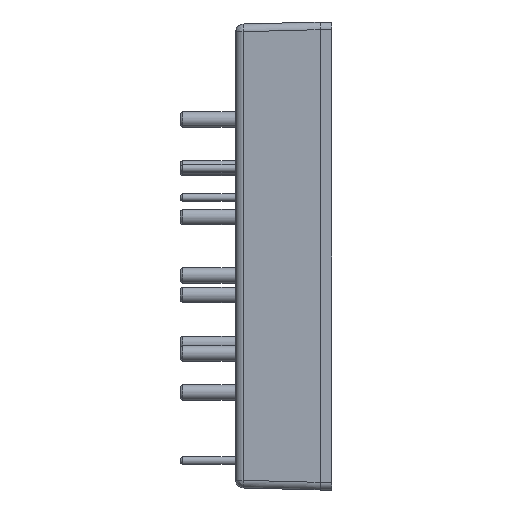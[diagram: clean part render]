
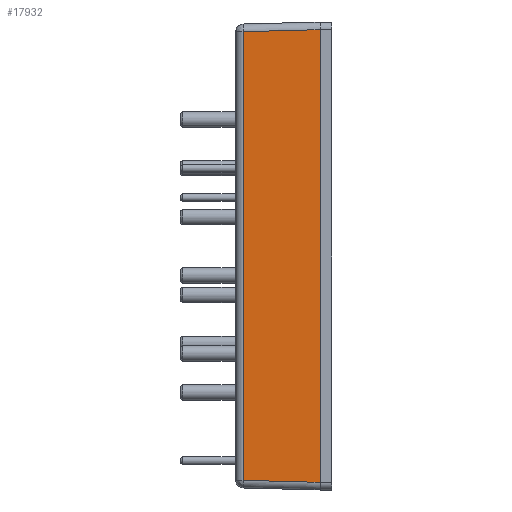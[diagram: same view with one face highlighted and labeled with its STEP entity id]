
A CAD part, left-side view. The second image highlights one B-rep face of the part: STEP entity #17932.
In plain terms, the highlighted planar face has unit normal (-1, 0.026, 0).
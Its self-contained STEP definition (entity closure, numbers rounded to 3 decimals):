
#202 = FACE_OUTER_BOUND ( 'NONE', #36444, .T. ) ;
#4169 = VECTOR ( 'NONE', #21735, 1000. ) ;
#4632 = CARTESIAN_POINT ( 'NONE',  ( -58.4, 0., -30.5 ) ) ;
#6260 = CARTESIAN_POINT ( 'NONE',  ( -58.4, 0., 29.5 ) ) ;
#6629 = VERTEX_POINT ( 'NONE', #35827 ) ;
#8960 = EDGE_CURVE ( 'NONE', #23808, #12847, #17858, .T. ) ;
#10333 = DIRECTION ( 'NONE',  ( -0.026, -0.999, -0.026 ) ) ;
#12500 = CARTESIAN_POINT ( 'NONE',  ( -58.137, 10.026, 29.238 ) ) ;
#12653 = EDGE_CURVE ( 'NONE', #6629, #23808, #16573, .T. ) ;
#12847 = VERTEX_POINT ( 'NONE', #30508 ) ;
#13331 = ORIENTED_EDGE ( 'NONE', *, *, #38522, .T. ) ;
#13570 = DIRECTION ( 'NONE',  ( 0., 0., 1. ) ) ;
#13917 = DIRECTION ( 'NONE',  ( -1., 0.026, 0. ) ) ;
#15765 = AXIS2_PLACEMENT_3D ( 'NONE', #4632, #13917, #20488 ) ;
#16421 = CARTESIAN_POINT ( 'NONE',  ( -58.4, 0., -30.5 ) ) ;
#16573 = LINE ( 'NONE', #38823, #27574 ) ;
#17135 = ORIENTED_EDGE ( 'NONE', *, *, #12653, .T. ) ;
#17858 = LINE ( 'NONE', #16421, #29789 ) ;
#17932 = ADVANCED_FACE ( 'NONE', ( #202 ), #36603, .T. ) ;
#20488 = DIRECTION ( 'NONE',  ( -0.026, -1., 0. ) ) ;
#21735 = DIRECTION ( 'NONE',  ( 0.026, 0.999, -0.026 ) ) ;
#23073 = ORIENTED_EDGE ( 'NONE', *, *, #8960, .T. ) ;
#23808 = VERTEX_POINT ( 'NONE', #32010 ) ;
#24758 = VECTOR ( 'NONE', #13570, 1000. ) ;
#27574 = VECTOR ( 'NONE', #10333, 1000. ) ;
#28833 = VERTEX_POINT ( 'NONE', #12500 ) ;
#29789 = VECTOR ( 'NONE', #38678, 1000. ) ;
#30508 = CARTESIAN_POINT ( 'NONE',  ( -58.4, 0., 29.5 ) ) ;
#31548 = LINE ( 'NONE', #6260, #4169 ) ;
#31887 = EDGE_CURVE ( 'NONE', #6629, #28833, #36142, .T. ) ;
#32010 = CARTESIAN_POINT ( 'NONE',  ( -58.4, 0., -29.5 ) ) ;
#32788 = CARTESIAN_POINT ( 'NONE',  ( -58.137, 10.026, 30.5 ) ) ;
#35827 = CARTESIAN_POINT ( 'NONE',  ( -58.137, 10.026, -29.238 ) ) ;
#36142 = LINE ( 'NONE', #32788, #24758 ) ;
#36444 = EDGE_LOOP ( 'NONE', ( #17135, #23073, #13331, #39046 ) ) ;
#36603 = PLANE ( 'NONE',  #15765 ) ;
#38522 = EDGE_CURVE ( 'NONE', #12847, #28833, #31548, .T. ) ;
#38678 = DIRECTION ( 'NONE',  ( 0., 0., 1. ) ) ;
#38823 = CARTESIAN_POINT ( 'NONE',  ( -58.137, 10.026, -29.238 ) ) ;
#39046 = ORIENTED_EDGE ( 'NONE', *, *, #31887, .F. ) ;
